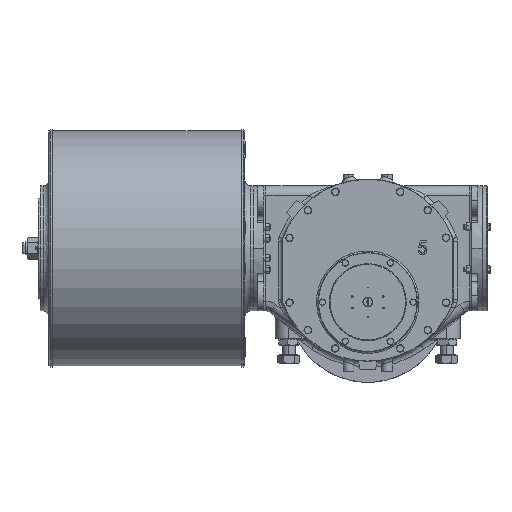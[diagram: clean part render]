
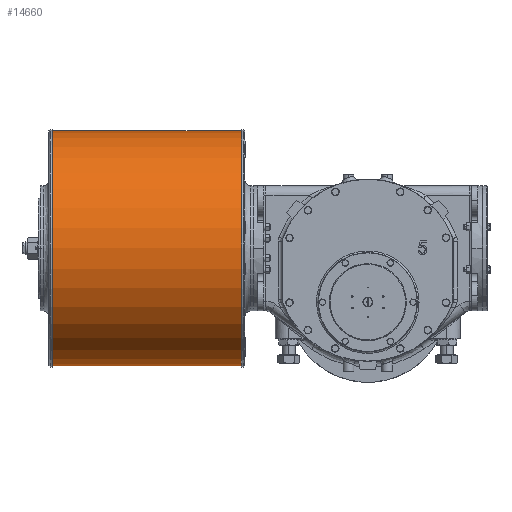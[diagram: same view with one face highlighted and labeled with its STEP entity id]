
A CAD part, top view. The second image highlights one B-rep face of the part: STEP entity #14660.
In plain terms, the highlighted cylindrical face has radius 304.8 mm (diameter 609.6 mm), a partial arc.
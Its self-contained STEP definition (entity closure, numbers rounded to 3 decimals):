
#3797 = CARTESIAN_POINT ( 'NONE',  ( -818.5, 444.8, 113. ) ) ;
#5548 = DIRECTION ( 'NONE',  ( -1., 0., 0. ) ) ;
#8968 = CARTESIAN_POINT ( 'NONE',  ( -328.5, 444.8, 113. ) ) ;
#11751 = AXIS2_PLACEMENT_3D ( 'NONE', #13649, #20358, #19255 ) ;
#13649 = CARTESIAN_POINT ( 'NONE',  ( -328.5, 140., 113. ) ) ;
#14660 = ADVANCED_FACE ( 'NONE', ( #27572 ), #67481, .T. ) ;
#19255 = DIRECTION ( 'NONE',  ( 0., -1., 0. ) ) ;
#20358 = DIRECTION ( 'NONE',  ( -1., 0., 0. ) ) ;
#20603 = CARTESIAN_POINT ( 'NONE',  ( -328.5, -164.8, 113. ) ) ;
#21169 = EDGE_CURVE ( 'NONE', #53928, #23040, #42930, .T. ) ;
#22229 = EDGE_CURVE ( 'NONE', #32472, #23040, #58525, .T. ) ;
#23040 = VERTEX_POINT ( 'NONE', #58632 ) ;
#25753 = DIRECTION ( 'NONE',  ( -1., 0., 0. ) ) ;
#27572 = FACE_OUTER_BOUND ( 'NONE', #57107, .T. ) ;
#30819 = DIRECTION ( 'NONE',  ( 0., -1., 0. ) ) ;
#32472 = VERTEX_POINT ( 'NONE', #20603 ) ;
#33985 = VECTOR ( 'NONE', #25753, 1000. ) ;
#38286 = AXIS2_PLACEMENT_3D ( 'NONE', #39151, #5548, #49956 ) ;
#39151 = CARTESIAN_POINT ( 'NONE',  ( -328.5, 140., 113. ) ) ;
#39226 = ORIENTED_EDGE ( 'NONE', *, *, #59123, .T. ) ;
#39528 = ORIENTED_EDGE ( 'NONE', *, *, #22229, .F. ) ;
#40365 = CIRCLE ( 'NONE', #11751, 304.8 ) ;
#42004 = CARTESIAN_POINT ( 'NONE',  ( -818.5, 140., 113. ) ) ;
#42930 = CIRCLE ( 'NONE', #45322, 304.8 ) ;
#43672 = CARTESIAN_POINT ( 'NONE',  ( -328.5, 444.8, 113. ) ) ;
#45322 = AXIS2_PLACEMENT_3D ( 'NONE', #42004, #57679, #30819 ) ;
#48836 = ORIENTED_EDGE ( 'NONE', *, *, #21169, .T. ) ;
#49605 = LINE ( 'NONE', #8968, #33985 ) ;
#49956 = DIRECTION ( 'NONE',  ( 0., -1., 0. ) ) ;
#53928 = VERTEX_POINT ( 'NONE', #3797 ) ;
#57107 = EDGE_LOOP ( 'NONE', ( #39226, #59402, #48836, #39528 ) ) ;
#57679 = DIRECTION ( 'NONE',  ( 1., 0., 0. ) ) ;
#58525 = LINE ( 'NONE', #70816, #66873 ) ;
#58632 = CARTESIAN_POINT ( 'NONE',  ( -818.5, -164.8, 113. ) ) ;
#59123 = EDGE_CURVE ( 'NONE', #32472, #62526, #40365, .T. ) ;
#59402 = ORIENTED_EDGE ( 'NONE', *, *, #66038, .T. ) ;
#62526 = VERTEX_POINT ( 'NONE', #43672 ) ;
#64486 = DIRECTION ( 'NONE',  ( -1., 0., 0. ) ) ;
#66038 = EDGE_CURVE ( 'NONE', #62526, #53928, #49605, .T. ) ;
#66873 = VECTOR ( 'NONE', #64486, 1000. ) ;
#67481 = CYLINDRICAL_SURFACE ( 'NONE', #38286, 304.8 ) ;
#70816 = CARTESIAN_POINT ( 'NONE',  ( -328.5, -164.8, 113. ) ) ;
